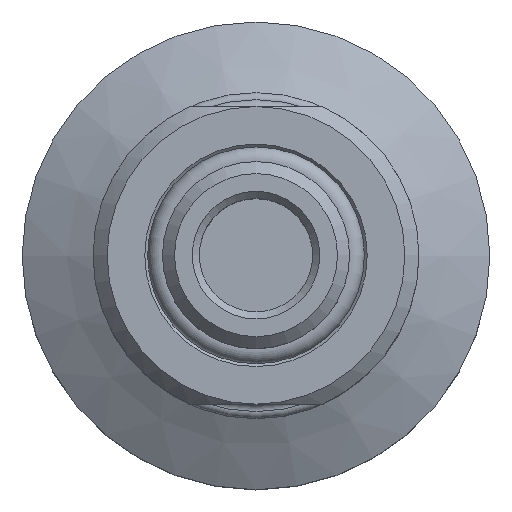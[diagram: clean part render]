
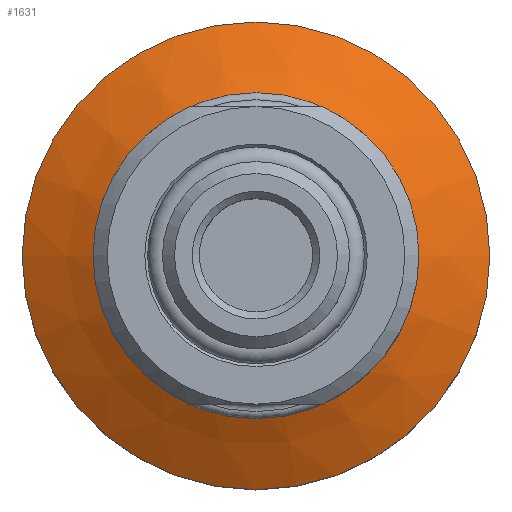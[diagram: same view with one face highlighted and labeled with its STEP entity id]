
A CAD part, top view. The second image highlights one B-rep face of the part: STEP entity #1631.
In plain terms, the highlighted conical face has half-angle 61.454 degrees and reference radius 16.5 mm.
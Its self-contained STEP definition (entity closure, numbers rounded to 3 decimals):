
#1631 = ADVANCED_FACE( '', ( #3098, #3099 ), #3100, .T. );
#3098 = FACE_OUTER_BOUND( '', #3933, .T. );
#3099 = FACE_BOUND( '', #3934, .T. );
#3100 = CONICAL_SURFACE( '', #3935, 16.5, 1.073 );
#3933 = EDGE_LOOP( '', ( #5781 ) );
#3934 = EDGE_LOOP( '', ( #5782 ) );
#3935 = AXIS2_PLACEMENT_3D( '', #5783, #5784, #5785 );
#5781 = ORIENTED_EDGE( '', *, *, #7842, .T. );
#5782 = ORIENTED_EDGE( '', *, *, #7844, .F. );
#5783 = CARTESIAN_POINT( '', ( 0., 0., -2.765 ) );
#5784 = DIRECTION( '', ( 0., 0., -1. ) );
#5785 = DIRECTION( '', ( -1., 0., 0. ) );
#7842 = EDGE_CURVE( '', #8832, #8832, #8833, .T. );
#7844 = EDGE_CURVE( '', #8836, #8836, #8837, .T. );
#8832 = VERTEX_POINT( '', #10176 );
#8833 = CIRCLE( '', #10177, 16.5 );
#8836 = VERTEX_POINT( '', #10180 );
#8837 = CIRCLE( '', #10181, 10.25 );
#10176 = CARTESIAN_POINT( '', ( 16.5, 0., -2.765 ) );
#10177 = AXIS2_PLACEMENT_3D( '', #10883, #10884, #10885 );
#10180 = CARTESIAN_POINT( '', ( 10.25, 0., 0.635 ) );
#10181 = AXIS2_PLACEMENT_3D( '', #10889, #10890, #10891 );
#10883 = CARTESIAN_POINT( '', ( 0., 0., -2.765 ) );
#10884 = DIRECTION( '', ( 0., 0., 1. ) );
#10885 = DIRECTION( '', ( 1., 0., 0. ) );
#10889 = CARTESIAN_POINT( '', ( 0., 0., 0.635 ) );
#10890 = DIRECTION( '', ( 0., 0., 1. ) );
#10891 = DIRECTION( '', ( 1., 0., 0. ) );
